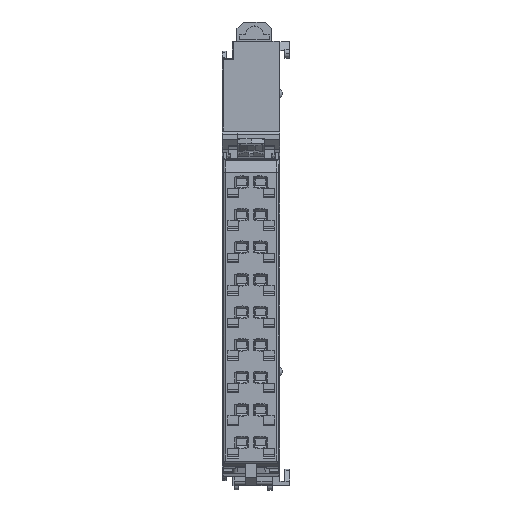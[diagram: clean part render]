
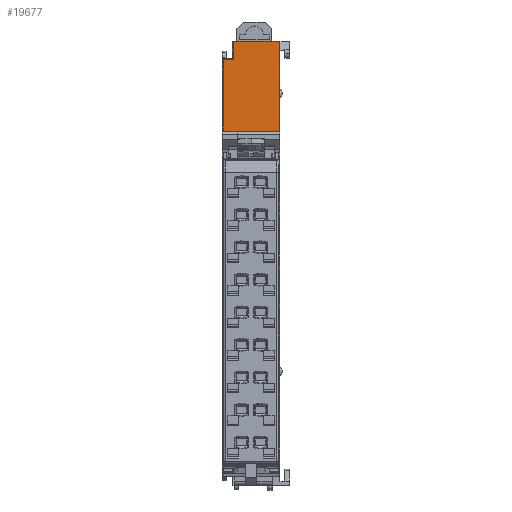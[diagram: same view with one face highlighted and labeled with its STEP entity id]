
A CAD part, top view. The second image highlights one B-rep face of the part: STEP entity #19677.
In plain terms, the highlighted planar face has unit normal (0, 0, 1).
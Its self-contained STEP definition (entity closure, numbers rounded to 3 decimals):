
#4864=DIRECTION('',(0.,1.,0.));
#4865=VECTOR('',#4864,20.173);
#4866=CARTESIAN_POINT('',(12.8,80.827,-0.1));
#4867=LINE('',#4866,#4865);
#4868=DIRECTION('',(1.,0.,0.));
#4869=VECTOR('',#4868,12.6);
#4870=CARTESIAN_POINT('',(0.2,80.827,-0.1));
#4871=LINE('',#4870,#4869);
#4872=DIRECTION('',(0.,-1.,0.));
#4873=VECTOR('',#4872,16.073);
#4874=CARTESIAN_POINT('',(0.2,96.9,-0.1));
#4875=LINE('',#4874,#4873);
#4876=DIRECTION('',(-1.,0.,0.));
#4877=VECTOR('',#4876,2.3);
#4878=CARTESIAN_POINT('',(2.5,96.9,-0.1));
#4879=LINE('',#4878,#4877);
#4880=DIRECTION('',(0.,-1.,0.));
#4881=VECTOR('',#4880,4.1);
#4882=CARTESIAN_POINT('',(2.5,101.,-0.1));
#4883=LINE('',#4882,#4881);
#4884=DIRECTION('',(-1.,0.,0.));
#4885=VECTOR('',#4884,10.3);
#4886=CARTESIAN_POINT('',(12.8,101.,-0.1));
#4887=LINE('',#4886,#4885);
#9253=CARTESIAN_POINT('',(12.8,101.,-0.1));
#9254=VERTEX_POINT('',#9253);
#9255=CARTESIAN_POINT('',(12.8,80.827,-0.1));
#9256=VERTEX_POINT('',#9255);
#9257=CARTESIAN_POINT('',(0.2,80.827,-0.1));
#9259=VERTEX_POINT('',#9257);
#9265=CARTESIAN_POINT('',(0.2,96.9,-0.1));
#9266=VERTEX_POINT('',#9265);
#9267=CARTESIAN_POINT('',(2.5,96.9,-0.1));
#9268=VERTEX_POINT('',#9267);
#9269=CARTESIAN_POINT('',(2.5,101.,-0.1));
#9270=VERTEX_POINT('',#9269);
#19661=CARTESIAN_POINT('',(6.5,90.913,-0.1));
#19662=DIRECTION('',(0.,0.,1.));
#19663=DIRECTION('',(1.,0.,0.));
#19664=AXIS2_PLACEMENT_3D('',#19661,#19662,#19663);
#19665=PLANE('',#19664);
#19666=ORIENTED_EDGE('',*,*,#18746,.F.);
#19667=ORIENTED_EDGE('',*,*,#18772,.F.);
#19669=ORIENTED_EDGE('',*,*,#19668,.F.);
#19671=ORIENTED_EDGE('',*,*,#19670,.F.);
#19673=ORIENTED_EDGE('',*,*,#19672,.F.);
#19674=ORIENTED_EDGE('',*,*,#19653,.F.);
#19675=EDGE_LOOP('',(#19666,#19667,#19669,#19671,#19673,#19674));
#19676=FACE_OUTER_BOUND('',#19675,.F.);
#19677=ADVANCED_FACE('',(#19676),#19665,.T.);
#18746=EDGE_CURVE('',#9256,#9254,#4867,.T.);
#18772=EDGE_CURVE('',#9259,#9256,#4871,.T.);
#19653=EDGE_CURVE('',#9254,#9270,#4887,.T.);
#19668=EDGE_CURVE('',#9266,#9259,#4875,.T.);
#19670=EDGE_CURVE('',#9268,#9266,#4879,.T.);
#19672=EDGE_CURVE('',#9270,#9268,#4883,.T.);
